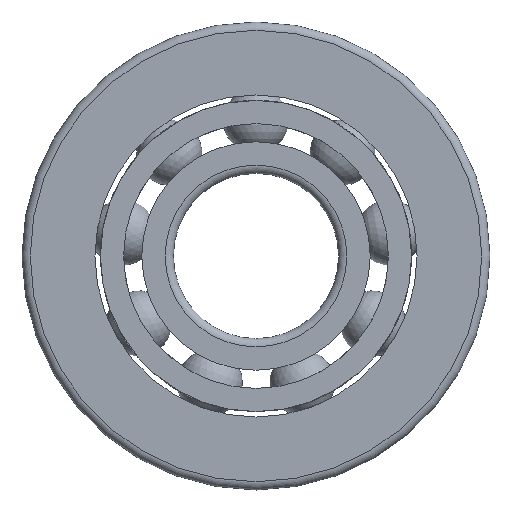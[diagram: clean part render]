
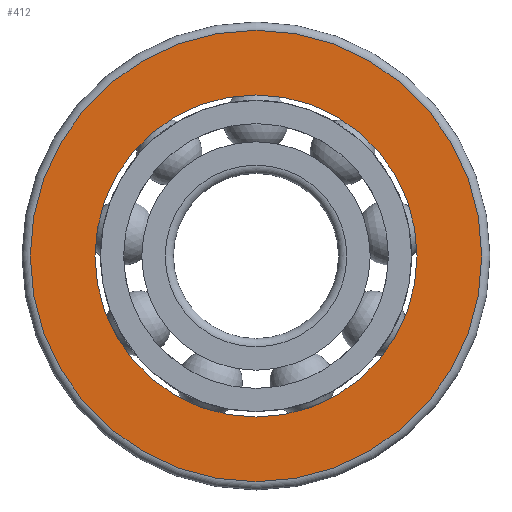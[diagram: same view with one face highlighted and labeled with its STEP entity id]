
A CAD part, left-side view. The second image highlights one B-rep face of the part: STEP entity #412.
In plain terms, the highlighted planar face has unit normal (-1, 0, 0).
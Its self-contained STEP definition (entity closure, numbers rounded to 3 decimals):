
#119=PLANE('',#621);
#216=EDGE_LOOP('',(#292));
#217=EDGE_LOOP('',(#293));
#292=ORIENTED_EDGE('',*,*,#325,.F.);
#293=ORIENTED_EDGE('',*,*,#331,.T.);
#325=EDGE_CURVE('',#556,#556,#345,.T.);
#331=EDGE_CURVE('',#562,#562,#351,.T.);
#345=CIRCLE('',#607,8.2);
#351=CIRCLE('',#619,5.85);
#412=ADVANCED_FACE('',(#505,#506),#119,.F.);
#505=FACE_BOUND('',#216,.T.);
#506=FACE_BOUND('',#217,.T.);
#556=VERTEX_POINT('',#1868);
#562=VERTEX_POINT('',#1886);
#607=AXIS2_PLACEMENT_3D('',#1867,#709,#710);
#619=AXIS2_PLACEMENT_3D('',#1885,#733,#734);
#621=AXIS2_PLACEMENT_3D('',#1888,#737,#738);
#709=DIRECTION('',(1.,0.,0.));
#710=DIRECTION('',(0.,0.,-1.));
#733=DIRECTION('',(1.,0.,0.));
#734=DIRECTION('',(0.,0.,-1.));
#737=DIRECTION('',(1.,0.,0.));
#738=DIRECTION('',(0.,0.,-1.));
#1867=CARTESIAN_POINT('',(-3.,0.,0.));
#1868=CARTESIAN_POINT('',(-3.,0.,-8.2));
#1885=CARTESIAN_POINT('',(-3.,0.,0.));
#1886=CARTESIAN_POINT('',(-3.,0.,-5.85));
#1888=CARTESIAN_POINT('',(-3.,0.,5.85));
